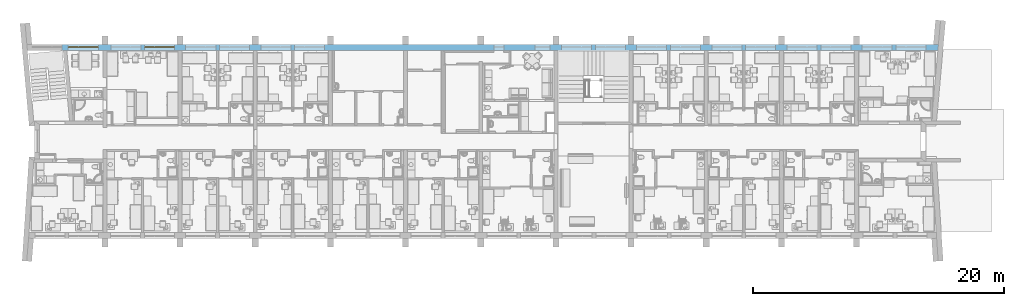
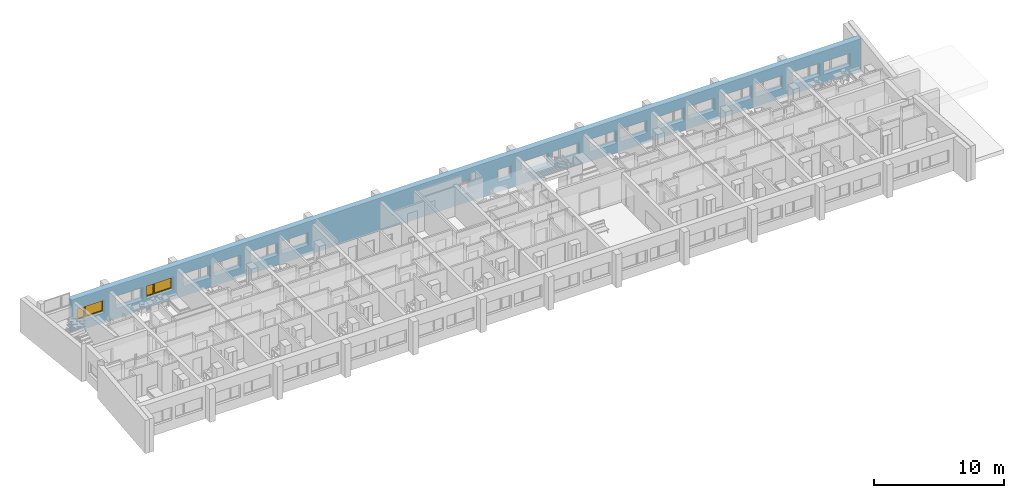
# One storey, part 19 of 172: 2 windows, 19 openings, plus 1 element that does not belong to this part.
"""IFC2X3 building model written with IfcOpenShell, lengths in millimetres."""

from ifc_helpers import new_model, entity, si_unit, converted_unit, money_unit, direction, frame, origin_with_axes, place, context, subcontext, project, spatial, polyline, outline, extrude, open_shell, faceted_brep, surface_model, source, transform, mapped, material, material_list, layer, layer_set, layer_usage, type_object, element, fill, save


model = new_model("IFC2X3")

# Units and contexts
model_context = context("Model", 3, precision=1e-05, world=origin_with_axes(), true_north=direction((0.0, 1.0)))
body_context = subcontext(model_context, "Body", "Model", "MODEL_VIEW")
ifc_project = project(units=[si_unit("LENGTHUNIT", "METRE", prefix="MILLI"), si_unit("AREAUNIT", "SQUARE_METRE"), si_unit("VOLUMEUNIT", "CUBIC_METRE"), converted_unit("PLANEANGLEUNIT", "DEGREE", entity("IfcPlaneAngleMeasure", 0.0174532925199), si_unit("PLANEANGLEUNIT", "RADIAN"), dimensions=[0, 0, 0, 0, 0, 0, 0]), si_unit("SOLIDANGLEUNIT", "STERADIAN"), money_unit("USD"), converted_unit("TIMEUNIT", "Year", entity("IfcTimeMeasure", 31556926.0), si_unit("TIMEUNIT", "SECOND"), dimensions=[0, 0, 0, 0, 0, 0, 0]), si_unit("MASSUNIT", "GRAM"), si_unit("THERMODYNAMICTEMPERATUREUNIT", "DEGREE_CELSIUS"), si_unit("LUMINOUSINTENSITYUNIT", "LUMEN")], contexts=[model_context])

# Site, building, storey
site_placement = place(None, origin_with_axes())
site = spatial("IfcSite", under=ifc_project, at=site_placement, Name="Site", CompositionType="ELEMENT")
building_placement = place(site_placement, origin_with_axes())
building = spatial("IfcBuilding", under=site, at=building_placement, Name="Building", CompositionType="ELEMENT")
storey_placement = place(building_placement, frame((0.0, 0.0, 3200.0), z_axis=(0.0, 0.0, 1.0), x_axis=(1.0, 0.0, 0.0)))
storey = spatial("IfcBuildingStorey", under=building, at=storey_placement, Name="3KORRUS", CompositionType="ELEMENT", Elevation=3200.0)

# Wall, openings, windows
ifc_material_1 = material(Name="Olemasolevad seinad tellis, uus viimistlus")
ifc_layer = layer(ifc_material_1, 500.0, ventilated="UNKNOWN")
ifc_layer_set = layer_set([ifc_layer], Name="Olemasolevad seinad tellis, uus viimistlus 500")
ifc_layer_usage = layer_usage(ifc_layer_set, "AXIS2", "POSITIVE", -100.0)
wall_type = type_object("IfcWallType", Name="Olemasolevad seinad tellis, uus viimistlus 500", PredefinedType="NOTDEFINED")
wall_placement = place(storey_placement, frame((-51569.3388124, -5039.6041088, 0.0), z_axis=(0.0, 0.0, 1.0), x_axis=(1.0, 0.0, 0.0)))
wall = element("IfcWallStandardCase", 1, at=wall_placement, inside=storey, type_object=wall_type, material=ifc_layer_usage, Name="VS1", ObjectType="VS1", context=body_context, shape_type="SweptSolid", body=[
    extrude(outline(polyline([(0.0, -100.0), (69914.7195482, -100.0), (69959.6995146, 400.0), (0.0, 400.0), (0.0, -100.0)])), origin_with_axes(), (0.0, 0.0, 1.0), 3100.0),
])
opening_1_placement = place(wall_placement, frame((34879.0421091, 0.0, 900.0), z_axis=(0.0, 0.0, 1.0), x_axis=(1.0, 0.0, 0.0)))
element("IfcOpeningElement", 2, at=opening_1_placement, cuts=wall, Name="WD - 001", context=body_context, shape_type="SweptSolid", body=[
    extrude(outline(polyline([(-400.0, 1200.0), (-400.0, 0.0), (400.0, 0.0), (400.0, 1200.0), (-400.0, 1200.0)])), frame((0.0, 200.0, 0.0), z_axis=(0.0, -1.0, 0.0), x_axis=(1.0, 0.0, 0.0)), (0.0, 0.0, 1.0), 800.0),
    extrude(outline(polyline([(-400.0, 0.0), (-400.0, -1200.0), (400.0, -1200.0), (400.0, 0.0), (-400.0, 0.0)])), frame((0.0, 200.0, 0.0), z_axis=(0.0, 1.0, 0.0), x_axis=(1.0, 0.0, 0.0)), (0.0, 0.0, 1.0), 700.0),
])
opening_2_placement = place(wall_placement, frame((38352.6323068, 0.0, 900.0), z_axis=(0.0, 0.0, 1.0), x_axis=(1.0, 0.0, 0.0)))
element("IfcOpeningElement", 3, at=opening_2_placement, cuts=wall, Name="A3", context=body_context, shape_type="SweptSolid", body=[
    extrude(outline(polyline([(-600.0, 1200.0), (-600.0, 0.0), (600.0, 0.0), (600.0, 1200.0), (-600.0, 1200.0)])), frame((0.0, 200.0, 0.0), z_axis=(0.0, -1.0, 0.0), x_axis=(1.0, 0.0, 0.0)), (0.0, 0.0, 1.0), 800.0),
    extrude(outline(polyline([(-600.0, 0.0), (-600.0, -1200.0), (600.0, -1200.0), (600.0, 0.0), (-600.0, 0.0)])), frame((0.0, 200.0, 0.0), z_axis=(0.0, 1.0, 0.0), x_axis=(1.0, 0.0, 0.0)), (0.0, 0.0, 1.0), 700.0),
])
opening_3_placement = place(wall_placement, frame((1700.0, 0.0, 900.0), z_axis=(0.0, 0.0, 1.0), x_axis=(1.0, 0.0, 0.0)))
opening_3 = element("IfcOpeningElement", 4, at=opening_3_placement, cuts=wall, Name="A1", context=body_context, shape_type="SweptSolid", body=[
    extrude(outline(polyline([(1200.0, 1200.0), (-1200.0, 1200.0), (-1200.0, 0.0), (1200.0, 0.0), (1200.0, 1200.0)])), frame((0.0, 200.0, 0.0), z_axis=(0.0, -1.0, 0.0), x_axis=(1.0, 0.0, 0.0)), (0.0, 0.0, 1.0), 800.0),
    extrude(outline(polyline([(1200.0, 0.0), (-1200.0, 0.0), (-1200.0, -1200.0), (1200.0, -1200.0), (1200.0, 0.0)])), frame((0.0, 200.0, 0.0), z_axis=(0.0, 1.0, 0.0), x_axis=(1.0, 0.0, 0.0)), (0.0, 0.0, 1.0), 700.0),
])
opening_4_placement = place(wall_placement, frame((7795.91085613, 0.0, 900.0), z_axis=(0.0, 0.0, 1.0), x_axis=(1.0, 0.0, 0.0)))
opening_4 = element("IfcOpeningElement", 5, at=opening_4_placement, cuts=wall, Name="A1", context=body_context, shape_type="SweptSolid", body=[
    extrude(outline(polyline([(1200.0, 1200.0), (-1200.0, 1200.0), (-1200.0, 0.0), (1200.0, 0.0), (1200.0, 1200.0)])), frame((0.0, 200.0, 0.0), z_axis=(0.0, -1.0, 0.0), x_axis=(1.0, 0.0, 0.0)), (0.0, 0.0, 1.0), 800.0),
    extrude(outline(polyline([(1200.0, 0.0), (-1200.0, 0.0), (-1200.0, -1200.0), (1200.0, -1200.0), (1200.0, 0.0)])), frame((0.0, 200.0, 0.0), z_axis=(0.0, 1.0, 0.0), x_axis=(1.0, 0.0, 0.0)), (0.0, 0.0, 1.0), 700.0),
])
opening_5_placement = place(wall_placement, frame((5095.91085613, 0.0, 900.0), z_axis=(0.0, 0.0, 1.0), x_axis=(1.0, 0.0, 0.0)))
element("IfcOpeningElement", 6, at=opening_5_placement, cuts=wall, Name="A2", context=body_context, shape_type="SweptSolid", body=[
    extrude(outline(polyline([(-1200.0, 1200.0), (-1200.0, 0.0), (1200.0, 0.0), (1200.0, 1200.0), (-1200.0, 1200.0)])), frame((0.0, 200.0, 0.0), z_axis=(0.0, -1.0, 0.0), x_axis=(1.0, 0.0, 0.0)), (0.0, 0.0, 1.0), 800.0),
    extrude(outline(polyline([(-1200.0, 0.0), (-1200.0, -1200.0), (1200.0, -1200.0), (1200.0, 0.0), (-1200.0, 0.0)])), frame((0.0, 200.0, 0.0), z_axis=(0.0, 1.0, 0.0), x_axis=(1.0, 0.0, 0.0)), (0.0, 0.0, 1.0), 700.0),
])
opening_6_placement = place(wall_placement, frame((13779.0421091, 0.0, 900.0), z_axis=(0.0, 0.0, 1.0), x_axis=(1.0, 0.0, 0.0)))
element("IfcOpeningElement", 7, at=opening_6_placement, cuts=wall, Name="A1", context=body_context, shape_type="SweptSolid", body=[
    extrude(outline(polyline([(1200.0, 1200.0), (-1200.0, 1200.0), (-1200.0, 0.0), (1200.0, 0.0), (1200.0, 1200.0)])), frame((0.0, 200.0, 0.0), z_axis=(0.0, -1.0, 0.0), x_axis=(1.0, 0.0, 0.0)), (0.0, 0.0, 1.0), 800.0),
    extrude(outline(polyline([(1200.0, 0.0), (-1200.0, 0.0), (-1200.0, -1200.0), (1200.0, -1200.0), (1200.0, 0.0)])), frame((0.0, 200.0, 0.0), z_axis=(0.0, 1.0, 0.0), x_axis=(1.0, 0.0, 0.0)), (0.0, 0.0, 1.0), 700.0),
])
opening_7_placement = place(wall_placement, frame((11079.0421091, 0.0, 900.0), z_axis=(0.0, 0.0, 1.0), x_axis=(1.0, 0.0, 0.0)))
element("IfcOpeningElement", 8, at=opening_7_placement, cuts=wall, Name="A2", context=body_context, shape_type="SweptSolid", body=[
    extrude(outline(polyline([(-1200.0, 1200.0), (-1200.0, 0.0), (1200.0, 0.0), (1200.0, 1200.0), (-1200.0, 1200.0)])), frame((0.0, 200.0, 0.0), z_axis=(0.0, -1.0, 0.0), x_axis=(1.0, 0.0, 0.0)), (0.0, 0.0, 1.0), 800.0),
    extrude(outline(polyline([(-1200.0, 0.0), (-1200.0, -1200.0), (1200.0, -1200.0), (1200.0, 0.0), (-1200.0, 0.0)])), frame((0.0, 200.0, 0.0), z_axis=(0.0, 1.0, 0.0), x_axis=(1.0, 0.0, 0.0)), (0.0, 0.0, 1.0), 700.0),
])
opening_8_placement = place(wall_placement, frame((43769.0421091, 0.0, 900.0), z_axis=(0.0, 0.0, 1.0), x_axis=(1.0, 0.0, 0.0)))
element("IfcOpeningElement", 9, at=opening_8_placement, cuts=wall, Name="A1", context=body_context, shape_type="SweptSolid", body=[
    extrude(outline(polyline([(1200.0, 1200.0), (-1200.0, 1200.0), (-1200.0, 0.0), (1200.0, 0.0), (1200.0, 1200.0)])), frame((0.0, 200.0, 0.0), z_axis=(0.0, -1.0, 0.0), x_axis=(1.0, 0.0, 0.0)), (0.0, 0.0, 1.0), 800.0),
    extrude(outline(polyline([(1200.0, 0.0), (-1200.0, 0.0), (-1200.0, -1200.0), (1200.0, -1200.0), (1200.0, 0.0)])), frame((0.0, 200.0, 0.0), z_axis=(0.0, 1.0, 0.0), x_axis=(1.0, 0.0, 0.0)), (0.0, 0.0, 1.0), 700.0),
])
opening_9_placement = place(wall_placement, frame((41069.0421091, 0.0, 900.0), z_axis=(0.0, 0.0, 1.0), x_axis=(1.0, 0.0, 0.0)))
element("IfcOpeningElement", 10, at=opening_9_placement, cuts=wall, Name="A2", context=body_context, shape_type="SweptSolid", body=[
    extrude(outline(polyline([(-1200.0, 1200.0), (-1200.0, 0.0), (1200.0, 0.0), (1200.0, 1200.0), (-1200.0, 1200.0)])), frame((0.0, 200.0, 0.0), z_axis=(0.0, -1.0, 0.0), x_axis=(1.0, 0.0, 0.0)), (0.0, 0.0, 1.0), 800.0),
    extrude(outline(polyline([(-1200.0, 0.0), (-1200.0, -1200.0), (1200.0, -1200.0), (1200.0, 0.0), (-1200.0, 0.0)])), frame((0.0, 200.0, 0.0), z_axis=(0.0, 1.0, 0.0), x_axis=(1.0, 0.0, 0.0)), (0.0, 0.0, 1.0), 700.0),
])
opening_10_placement = place(wall_placement, frame((49769.0421091, 0.0, 900.0), z_axis=(0.0, 0.0, 1.0), x_axis=(1.0, 0.0, 0.0)))
element("IfcOpeningElement", 11, at=opening_10_placement, cuts=wall, Name="A1", context=body_context, shape_type="SweptSolid", body=[
    extrude(outline(polyline([(1200.0, 1200.0), (-1200.0, 1200.0), (-1200.0, 0.0), (1200.0, 0.0), (1200.0, 1200.0)])), frame((0.0, 200.0, 0.0), z_axis=(0.0, -1.0, 0.0), x_axis=(1.0, 0.0, 0.0)), (0.0, 0.0, 1.0), 800.0),
    extrude(outline(polyline([(1200.0, 0.0), (-1200.0, 0.0), (-1200.0, -1200.0), (1200.0, -1200.0), (1200.0, 0.0)])), frame((0.0, 200.0, 0.0), z_axis=(0.0, 1.0, 0.0), x_axis=(1.0, 0.0, 0.0)), (0.0, 0.0, 1.0), 700.0),
])
opening_11_placement = place(wall_placement, frame((47069.0421091, 0.0, 900.0), z_axis=(0.0, 0.0, 1.0), x_axis=(1.0, 0.0, 0.0)))
element("IfcOpeningElement", 12, at=opening_11_placement, cuts=wall, Name="A2", context=body_context, shape_type="SweptSolid", body=[
    extrude(outline(polyline([(-1200.0, 1200.0), (-1200.0, 0.0), (1200.0, 0.0), (1200.0, 1200.0), (-1200.0, 1200.0)])), frame((0.0, 200.0, 0.0), z_axis=(0.0, -1.0, 0.0), x_axis=(1.0, 0.0, 0.0)), (0.0, 0.0, 1.0), 800.0),
    extrude(outline(polyline([(-1200.0, 0.0), (-1200.0, -1200.0), (1200.0, -1200.0), (1200.0, 0.0), (-1200.0, 0.0)])), frame((0.0, 200.0, 0.0), z_axis=(0.0, 1.0, 0.0), x_axis=(1.0, 0.0, 0.0)), (0.0, 0.0, 1.0), 700.0),
])
opening_12_placement = place(wall_placement, frame((55769.0421091, 0.0, 900.0), z_axis=(0.0, 0.0, 1.0), x_axis=(1.0, 0.0, 0.0)))
element("IfcOpeningElement", 13, at=opening_12_placement, cuts=wall, Name="A1", context=body_context, shape_type="SweptSolid", body=[
    extrude(outline(polyline([(1200.0, 1200.0), (-1200.0, 1200.0), (-1200.0, 0.0), (1200.0, 0.0), (1200.0, 1200.0)])), frame((0.0, 200.0, 0.0), z_axis=(0.0, -1.0, 0.0), x_axis=(1.0, 0.0, 0.0)), (0.0, 0.0, 1.0), 800.0),
    extrude(outline(polyline([(1200.0, 0.0), (-1200.0, 0.0), (-1200.0, -1200.0), (1200.0, -1200.0), (1200.0, 0.0)])), frame((0.0, 200.0, 0.0), z_axis=(0.0, 1.0, 0.0), x_axis=(1.0, 0.0, 0.0)), (0.0, 0.0, 1.0), 700.0),
])
opening_13_placement = place(wall_placement, frame((53069.0421091, 0.0, 900.0), z_axis=(0.0, 0.0, 1.0), x_axis=(1.0, 0.0, 0.0)))
element("IfcOpeningElement", 14, at=opening_13_placement, cuts=wall, Name="A2", context=body_context, shape_type="SweptSolid", body=[
    extrude(outline(polyline([(-1200.0, 1200.0), (-1200.0, 0.0), (1200.0, 0.0), (1200.0, 1200.0), (-1200.0, 1200.0)])), frame((0.0, 200.0, 0.0), z_axis=(0.0, -1.0, 0.0), x_axis=(1.0, 0.0, 0.0)), (0.0, 0.0, 1.0), 800.0),
    extrude(outline(polyline([(-1200.0, 0.0), (-1200.0, -1200.0), (1200.0, -1200.0), (1200.0, 0.0), (-1200.0, 0.0)])), frame((0.0, 200.0, 0.0), z_axis=(0.0, 1.0, 0.0), x_axis=(1.0, 0.0, 0.0)), (0.0, 0.0, 1.0), 700.0),
])
opening_14_placement = place(wall_placement, frame((61769.0421091, 0.0, 900.0), z_axis=(0.0, 0.0, 1.0), x_axis=(1.0, 0.0, 0.0)))
element("IfcOpeningElement", 15, at=opening_14_placement, cuts=wall, Name="A1", context=body_context, shape_type="SweptSolid", body=[
    extrude(outline(polyline([(1200.0, 1200.0), (-1200.0, 1200.0), (-1200.0, 0.0), (1200.0, 0.0), (1200.0, 1200.0)])), frame((0.0, 200.0, 0.0), z_axis=(0.0, -1.0, 0.0), x_axis=(1.0, 0.0, 0.0)), (0.0, 0.0, 1.0), 800.0),
    extrude(outline(polyline([(1200.0, 0.0), (-1200.0, 0.0), (-1200.0, -1200.0), (1200.0, -1200.0), (1200.0, 0.0)])), frame((0.0, 200.0, 0.0), z_axis=(0.0, 1.0, 0.0), x_axis=(1.0, 0.0, 0.0)), (0.0, 0.0, 1.0), 700.0),
])
opening_15_placement = place(wall_placement, frame((59069.0421091, 0.0, 900.0), z_axis=(0.0, 0.0, 1.0), x_axis=(1.0, 0.0, 0.0)))
element("IfcOpeningElement", 16, at=opening_15_placement, cuts=wall, Name="A2", context=body_context, shape_type="SweptSolid", body=[
    extrude(outline(polyline([(-1200.0, 1200.0), (-1200.0, 0.0), (1200.0, 0.0), (1200.0, 1200.0), (-1200.0, 1200.0)])), frame((0.0, 200.0, 0.0), z_axis=(0.0, -1.0, 0.0), x_axis=(1.0, 0.0, 0.0)), (0.0, 0.0, 1.0), 800.0),
    extrude(outline(polyline([(-1200.0, 0.0), (-1200.0, -1200.0), (1200.0, -1200.0), (1200.0, 0.0), (-1200.0, 0.0)])), frame((0.0, 200.0, 0.0), z_axis=(0.0, 1.0, 0.0), x_axis=(1.0, 0.0, 0.0)), (0.0, 0.0, 1.0), 700.0),
])
opening_16_placement = place(wall_placement, frame((67773.3244043, 0.0, 900.0), z_axis=(0.0, 0.0, 1.0), x_axis=(1.0, 0.0, 0.0)))
element("IfcOpeningElement", 17, at=opening_16_placement, cuts=wall, Name="A1", context=body_context, shape_type="SweptSolid", body=[
    extrude(outline(polyline([(1200.0, 1200.0), (-1200.0, 1200.0), (-1200.0, 0.0), (1200.0, 0.0), (1200.0, 1200.0)])), frame((0.0, 200.0, 0.0), z_axis=(0.0, -1.0, 0.0), x_axis=(1.0, 0.0, 0.0)), (0.0, 0.0, 1.0), 800.0),
    extrude(outline(polyline([(1200.0, 0.0), (-1200.0, 0.0), (-1200.0, -1200.0), (1200.0, -1200.0), (1200.0, 0.0)])), frame((0.0, 200.0, 0.0), z_axis=(0.0, 1.0, 0.0), x_axis=(1.0, 0.0, 0.0)), (0.0, 0.0, 1.0), 700.0),
])
opening_17_placement = place(wall_placement, frame((65073.3244043, 0.0, 900.0), z_axis=(0.0, 0.0, 1.0), x_axis=(1.0, 0.0, 0.0)))
element("IfcOpeningElement", 18, at=opening_17_placement, cuts=wall, Name="A2", context=body_context, shape_type="SweptSolid", body=[
    extrude(outline(polyline([(-1200.0, 1200.0), (-1200.0, 0.0), (1200.0, 0.0), (1200.0, 1200.0), (-1200.0, 1200.0)])), frame((0.0, 200.0, 0.0), z_axis=(0.0, -1.0, 0.0), x_axis=(1.0, 0.0, 0.0)), (0.0, 0.0, 1.0), 800.0),
    extrude(outline(polyline([(-1200.0, 0.0), (-1200.0, -1200.0), (1200.0, -1200.0), (1200.0, 0.0), (-1200.0, 0.0)])), frame((0.0, 200.0, 0.0), z_axis=(0.0, 1.0, 0.0), x_axis=(1.0, 0.0, 0.0)), (0.0, 0.0, 1.0), 700.0),
])
opening_18_placement = place(wall_placement, frame((19767.4765851, 0.0, 900.0), z_axis=(0.0, 0.0, 1.0), x_axis=(1.0, 0.0, 0.0)))
element("IfcOpeningElement", 19, at=opening_18_placement, cuts=wall, Name="A1", context=body_context, shape_type="SweptSolid", body=[
    extrude(outline(polyline([(1200.0, 1200.0), (-1200.0, 1200.0), (-1200.0, 0.0), (1200.0, 0.0), (1200.0, 1200.0)])), frame((0.0, 200.0, 0.0), z_axis=(0.0, -1.0, 0.0), x_axis=(1.0, 0.0, 0.0)), (0.0, 0.0, 1.0), 800.0),
    extrude(outline(polyline([(1200.0, 0.0), (-1200.0, 0.0), (-1200.0, -1200.0), (1200.0, -1200.0), (1200.0, 0.0)])), frame((0.0, 200.0, 0.0), z_axis=(0.0, 1.0, 0.0), x_axis=(1.0, 0.0, 0.0)), (0.0, 0.0, 1.0), 700.0),
])
opening_19_placement = place(wall_placement, frame((17067.4765851, 0.0, 900.0), z_axis=(0.0, 0.0, 1.0), x_axis=(1.0, 0.0, 0.0)))
element("IfcOpeningElement", 20, at=opening_19_placement, cuts=wall, Name="A2", context=body_context, shape_type="SweptSolid", body=[
    extrude(outline(polyline([(-1200.0, 1200.0), (-1200.0, 0.0), (1200.0, 0.0), (1200.0, 1200.0), (-1200.0, 1200.0)])), frame((0.0, 200.0, 0.0), z_axis=(0.0, -1.0, 0.0), x_axis=(1.0, 0.0, 0.0)), (0.0, 0.0, 1.0), 800.0),
    extrude(outline(polyline([(-1200.0, 0.0), (-1200.0, -1200.0), (1200.0, -1200.0), (1200.0, 0.0), (-1200.0, 0.0)])), frame((0.0, 200.0, 0.0), z_axis=(0.0, 1.0, 0.0), x_axis=(1.0, 0.0, 0.0)), (0.0, 0.0, 1.0), 700.0),
])
ifc_material_2 = material(Name="Background")
ifc_material_list = material_list([ifc_material_2])
window_style = type_object("IfcWindowStyle", Name="Double Window 19", ConstructionType="NOTDEFINED", OperationType="DOUBLE_PANEL_VERTICAL", ParameterTakesPrecedence=False, Sizeable=False)
shared_shape = source(origin_with_axes(), body_context, "Body", "SurfaceModel", [
    faceted_brep([(1175.0, -200.0, 1150.0), (1175.0, -225.0, 1150.0), (1150.0, -225.0, 1150.0), (1150.0, -250.0, 1150.0), (1200.0, -250.0, 1150.0), (1200.0, -200.0, 1150.0), (1175.0, -200.0, 50.0), (1175.0, -225.0, 50.0), (1150.0, -225.0, 50.0), (1150.0, -250.0, 50.0), (1200.0, -250.0, 50.0), (1200.0, -200.0, 50.0)], [[[0, 1, 2, 3, 4, 5]], [[1, 0, 6, 7]], [[8, 2, 1, 7]], [[2, 8, 9, 3]], [[4, 3, 9, 10]], [[5, 4, 10, 11]], [[6, 0, 5, 11]], [[7, 6, 11, 10, 9, 8]]]),
    faceted_brep([(-1150.0, -225.0, 1150.0), (-1175.0, -225.0, 1150.0), (-1175.0, -200.0, 1150.0), (-1200.0, -200.0, 1150.0), (-1200.0, -250.0, 1150.0), (-1150.0, -250.0, 1150.0), (-1150.0, -225.0, 50.0), (-1175.0, -225.0, 50.0), (-1175.0, -200.0, 50.0), (-1200.0, -200.0, 50.0), (-1200.0, -250.0, 50.0), (-1150.0, -250.0, 50.0)], [[[0, 1, 2, 3, 4, 5]], [[1, 0, 6, 7]], [[8, 2, 1, 7]], [[2, 8, 9, 3]], [[9, 10, 4, 3]], [[10, 11, 5, 4]], [[6, 0, 5, 11]], [[7, 6, 11, 10, 9, 8]]]),
    faceted_brep([(-350.0, -225.0, 1150.0), (-375.0, -225.0, 1150.0), (-375.0, -200.0, 1150.0), (-425.0, -200.0, 1150.0), (-425.0, -225.0, 1150.0), (-450.0, -225.0, 1150.0), (-450.0, -250.0, 1150.0), (-350.0, -250.0, 1150.0), (-350.0, -225.0, 50.0), (-375.0, -225.0, 50.0), (-375.0, -200.0, 50.0), (-425.0, -200.0, 50.0), (-425.0, -225.0, 50.0), (-450.0, -225.0, 50.0), (-450.0, -250.0, 50.0), (-350.0, -250.0, 50.0)], [[[0, 1, 2, 3, 4, 5, 6, 7]], [[1, 0, 8, 9]], [[10, 2, 1, 9]], [[2, 10, 11, 3]], [[4, 3, 11, 12]], [[13, 5, 4, 12]], [[5, 13, 14, 6]], [[14, 15, 7, 6]], [[8, 0, 7, 15]], [[9, 8, 15, 14, 13, 12, 11, 10]]]),
    faceted_brep([(-350.0, -225.0, 50.0), (-375.0, -225.0, 50.0), (-375.0, -200.0, 50.0), (-425.0, -200.0, 50.0), (-425.0, -225.0, 50.0), (-450.0, -225.0, 50.0), (-450.0, -250.0, 50.0), (-350.0, -250.0, 50.0), (1150.0, -225.0, 50.0), (1175.0, -225.0, 50.0), (1175.0, -225.0, 25.0), (-375.0, -225.0, 25.0), (-375.0, -200.0, 25.0), (1175.0, -200.0, 25.0), (1175.0, -200.0, 50.0), (1200.0, -200.0, 50.0), (1200.0, -200.0, 0.0), (-1200.0, -200.0, 0.0), (-1200.0, -200.0, 50.0), (-1175.0, -200.0, 50.0), (-1175.0, -200.0, 25.0), (-425.0, -200.0, 25.0), (-425.0, -225.0, 25.0), (-1175.0, -225.0, 50.0), (-1150.0, -225.0, 50.0), (-1175.0, -225.0, 25.0), (-1150.0, -250.0, 50.0), (1200.0, -250.0, 50.0), (1150.0, -250.0, 50.0), (-1200.0, -250.0, 50.0), (-1200.0, -250.0, 0.0), (1200.0, -250.0, 0.0)], [[[0, 1, 2, 3, 4, 5, 6, 7]], [[1, 0, 8, 9, 10, 11]], [[12, 2, 1, 11]], [[13, 14, 15, 16, 17, 18, 19, 20, 21, 3, 2, 12]], [[4, 3, 21, 22]], [[23, 24, 5, 4, 22, 25]], [[5, 24, 26, 6]], [[27, 28, 7, 6, 26, 29, 30, 31]], [[8, 0, 7, 28]], [[9, 8, 28, 27, 15, 14]], [[9, 14, 13, 10]], [[13, 12, 11, 10]], [[15, 27, 31, 16]], [[16, 31, 30, 17]], [[17, 30, 29, 18]], [[24, 23, 19, 18, 29, 26]], [[20, 19, 23, 25]], [[21, 20, 25, 22]]]),
    faceted_brep([(1175.0, -200.0, 1150.0), (1175.0, -200.0, 1175.0), (-375.0, -200.0, 1175.0), (-375.0, -200.0, 1150.0), (-425.0, -200.0, 1150.0), (-425.0, -200.0, 1175.0), (-1175.0, -200.0, 1175.0), (-1175.0, -200.0, 1150.0), (-1200.0, -200.0, 1150.0), (-1200.0, -200.0, 1200.0), (1200.0, -200.0, 1200.0), (1200.0, -200.0, 1150.0), (1175.0, -225.0, 1150.0), (1175.0, -225.0, 1175.0), (-375.0, -225.0, 1175.0), (-375.0, -225.0, 1150.0), (-350.0, -225.0, 1150.0), (-350.0, -250.0, 1150.0), (-450.0, -250.0, 1150.0), (-450.0, -225.0, 1150.0), (-425.0, -225.0, 1150.0), (-425.0, -225.0, 1175.0), (-1175.0, -225.0, 1175.0), (-1175.0, -225.0, 1150.0), (-1150.0, -225.0, 1150.0), (-1150.0, -250.0, 1150.0), (-1200.0, -250.0, 1150.0), (-1200.0, -250.0, 1200.0), (1200.0, -250.0, 1200.0), (1200.0, -250.0, 1150.0), (1150.0, -250.0, 1150.0), (1150.0, -225.0, 1150.0)], [[[0, 1, 2, 3, 4, 5, 6, 7, 8, 9, 10, 11]], [[1, 0, 12, 13]], [[2, 1, 13, 14]], [[3, 2, 14, 15]], [[15, 16, 17, 18, 19, 20, 4, 3]], [[5, 4, 20, 21]], [[6, 5, 21, 22]], [[7, 6, 22, 23]], [[23, 24, 25, 26, 8, 7]], [[8, 26, 27, 9]], [[9, 27, 28, 10]], [[10, 28, 29, 11]], [[12, 0, 11, 29, 30, 31]], [[16, 15, 14, 13, 12, 31]], [[16, 31, 30, 17]], [[18, 17, 30, 29, 28, 27, 26, 25]], [[24, 19, 18, 25]], [[24, 23, 22, 21, 20, 19]]]),
    faceted_brep([(1125.0, -225.0, 1125.0), (1175.0, -225.0, 1125.0), (1175.0, -175.0, 1125.0), (1125.0, -175.0, 1125.0), (1125.0, -225.0, 75.0), (1175.0, -225.0, 75.0), (1175.0, -175.0, 75.0), (1125.0, -175.0, 75.0)], [[[0, 1, 2, 3]], [[0, 4, 5, 1]], [[1, 5, 6, 2]], [[3, 2, 6, 7]], [[4, 0, 3, 7]], [[5, 4, 7, 6]]]),
    faceted_brep([(-325.0, -225.0, 75.0), (-375.0, -225.0, 75.0), (-375.0, -175.0, 75.0), (-325.0, -175.0, 75.0), (-325.0, -225.0, 1125.0), (-375.0, -225.0, 1125.0), (-375.0, -175.0, 1125.0), (-325.0, -175.0, 1125.0)], [[[0, 1, 2, 3]], [[0, 4, 5, 1]], [[1, 5, 6, 2]], [[3, 2, 6, 7]], [[4, 0, 3, 7]], [[5, 4, 7, 6]]]),
    faceted_brep([(-375.0, -225.0, 25.0), (-375.0, -225.0, 75.0), (-375.0, -175.0, 75.0), (-375.0, -175.0, 25.0), (1175.0, -225.0, 25.0), (1175.0, -225.0, 75.0), (1125.0, -225.0, 75.0), (-325.0, -225.0, 75.0), (-325.0, -175.0, 75.0), (1125.0, -175.0, 75.0), (1175.0, -175.0, 75.0), (1175.0, -175.0, 25.0)], [[[0, 1, 2, 3]], [[0, 4, 5, 6, 7, 1]], [[1, 7, 8, 2]], [[3, 2, 8, 9, 10, 11]], [[4, 0, 3, 11]], [[5, 4, 11, 10]], [[6, 5, 10, 9]], [[7, 6, 9, 8]]]),
    faceted_brep([(1175.0, -225.0, 1175.0), (1175.0, -225.0, 1125.0), (1175.0, -175.0, 1125.0), (1175.0, -175.0, 1175.0), (-375.0, -225.0, 1175.0), (-375.0, -225.0, 1125.0), (-325.0, -225.0, 1125.0), (1125.0, -225.0, 1125.0), (1125.0, -175.0, 1125.0), (-325.0, -175.0, 1125.0), (-375.0, -175.0, 1125.0), (-375.0, -175.0, 1175.0)], [[[0, 1, 2, 3]], [[0, 4, 5, 6, 7, 1]], [[1, 7, 8, 2]], [[3, 2, 8, 9, 10, 11]], [[4, 0, 3, 11]], [[5, 4, 11, 10]], [[6, 5, 10, 9]], [[7, 6, 9, 8]]]),
    surface_model("IfcShellBasedSurfaceModel", [(1125.0, -210.0, 75.0), (1125.0, -210.0, 1125.0), (-325.0, -210.0, 1125.0), (-325.0, -210.0, 75.0)], [open_shell([[[0, 1, 2, 3]]])]),
    surface_model("IfcShellBasedSurfaceModel", [(1125.0, -190.0, 75.0), (-325.0, -190.0, 75.0), (-325.0, -190.0, 1125.0), (1125.0, -190.0, 1125.0)], [open_shell([[[0, 1, 2, 3]]])]),
    faceted_brep([(-475.0, -225.0, 1125.0), (-425.0, -225.0, 1125.0), (-425.0, -175.0, 1125.0), (-475.0, -175.0, 1125.0), (-475.0, -225.0, 75.0), (-425.0, -225.0, 75.0), (-425.0, -175.0, 75.0), (-475.0, -175.0, 75.0)], [[[0, 1, 2, 3]], [[0, 4, 5, 1]], [[1, 5, 6, 2]], [[3, 2, 6, 7]], [[4, 0, 3, 7]], [[5, 4, 7, 6]]]),
    faceted_brep([(-1125.0, -225.0, 75.0), (-1175.0, -225.0, 75.0), (-1175.0, -175.0, 75.0), (-1125.0, -175.0, 75.0), (-1125.0, -225.0, 1125.0), (-1175.0, -225.0, 1125.0), (-1175.0, -175.0, 1125.0), (-1125.0, -175.0, 1125.0)], [[[0, 1, 2, 3]], [[0, 4, 5, 1]], [[1, 5, 6, 2]], [[3, 2, 6, 7]], [[4, 0, 3, 7]], [[5, 4, 7, 6]]]),
    faceted_brep([(-1175.0, -225.0, 25.0), (-1175.0, -225.0, 75.0), (-1175.0, -175.0, 75.0), (-1175.0, -175.0, 25.0), (-425.0, -225.0, 25.0), (-425.0, -225.0, 75.0), (-475.0, -225.0, 75.0), (-1125.0, -225.0, 75.0), (-1125.0, -175.0, 75.0), (-475.0, -175.0, 75.0), (-425.0, -175.0, 75.0), (-425.0, -175.0, 25.0)], [[[0, 1, 2, 3]], [[0, 4, 5, 6, 7, 1]], [[1, 7, 8, 2]], [[3, 2, 8, 9, 10, 11]], [[4, 0, 3, 11]], [[5, 4, 11, 10]], [[6, 5, 10, 9]], [[7, 6, 9, 8]]]),
    faceted_brep([(-425.0, -225.0, 1175.0), (-425.0, -225.0, 1125.0), (-425.0, -175.0, 1125.0), (-425.0, -175.0, 1175.0), (-1175.0, -225.0, 1175.0), (-1175.0, -225.0, 1125.0), (-1125.0, -225.0, 1125.0), (-475.0, -225.0, 1125.0), (-475.0, -175.0, 1125.0), (-1125.0, -175.0, 1125.0), (-1175.0, -175.0, 1125.0), (-1175.0, -175.0, 1175.0)], [[[0, 1, 2, 3]], [[0, 4, 5, 6, 7, 1]], [[1, 7, 8, 2]], [[3, 2, 8, 9, 10, 11]], [[4, 0, 3, 11]], [[5, 4, 11, 10]], [[6, 5, 10, 9]], [[7, 6, 9, 8]]]),
    surface_model("IfcShellBasedSurfaceModel", [(-475.0, -210.0, 75.0), (-475.0, -210.0, 1125.0), (-1125.0, -210.0, 1125.0), (-1125.0, -210.0, 75.0)], [open_shell([[[0, 1, 2, 3]]])]),
    surface_model("IfcShellBasedSurfaceModel", [(-475.0, -190.0, 75.0), (-1125.0, -190.0, 75.0), (-1125.0, -190.0, 1125.0), (-475.0, -190.0, 1125.0)], [open_shell([[[0, 1, 2, 3]]])]),
])
window_1_placement = place(opening_3_placement, frame((-1200.0, 0.0, 0.0), z_axis=(0.0, 0.0, 1.0), x_axis=(1.0, 0.0, 0.0)))
window_1 = element("IfcWindow", 21, at=window_1_placement, inside=storey, type_object=window_style, material=ifc_material_list, Name="A1", ObjectType="A1", OverallHeight=1200.0, OverallWidth=2400.0, context=body_context, shape_type="MappedRepresentation", body=[
    mapped(shared_shape, transform((1200.0, 400.0, 0.0))),
])
fill(opening_3, window_1)
window_2_placement = place(opening_4_placement, frame((-1200.0, 0.0, 0.0), z_axis=(0.0, 0.0, 1.0), x_axis=(1.0, 0.0, 0.0)))
window_2 = element("IfcWindow", 22, at=window_2_placement, inside=storey, type_object=window_style, material=ifc_material_list, Name="A1", ObjectType="A1", OverallHeight=1200.0, OverallWidth=2400.0, context=body_context, shape_type="MappedRepresentation", body=[
    mapped(shared_shape, transform((1200.0, 400.0, 0.0))),
])
fill(opening_4, window_2)

save(model, "model.ifc")
